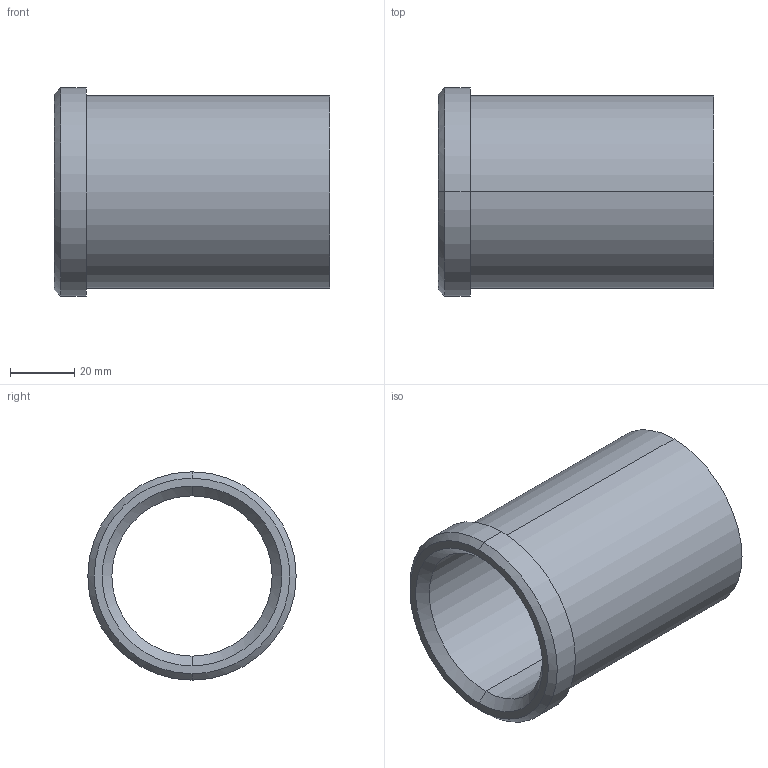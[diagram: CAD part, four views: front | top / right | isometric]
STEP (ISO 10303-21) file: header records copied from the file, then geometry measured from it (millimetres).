
FILE_DESCRIPTION(('CATIA V5 STEP Exchange'),'2;1');
FILE_NAME('C:\Users\Utente\Desktop\IO LAVORO\3D X SITO CF\X SITO\PLASTICA\353\353-50X86.stp','2021-05-14T13:23:19+00:00',('none'),('none'),'CATIA Version 5 Release 20 GA (IN-10)','CATIA V5 STEP AP203','none');
FILE_SCHEMA(('CONFIG_CONTROL_DESIGN'));
Length unit declared in the file: millimetre
Products named in the file (1): 353-50X86
Bounding box: 86 x 65 x 65 mm (x, y, z)
Volume: 77935 mm3; surface area: 31944.3 mm2
Topology: 1 solids, 1 shells, 15 faces, 48 edges, 36 vertices
Faces by surface type: cylinder 6, cone 4, plane 3, torus 2
Entity records: 680 total; most frequent: CARTESIAN_POINT 212, ORIENTED_EDGE 96, DIRECTION 70, EDGE_CURVE 48, AXIS2_PLACEMENT_3D 46, VERTEX_POINT 36, CIRCLE 30, EDGE_LOOP 18
